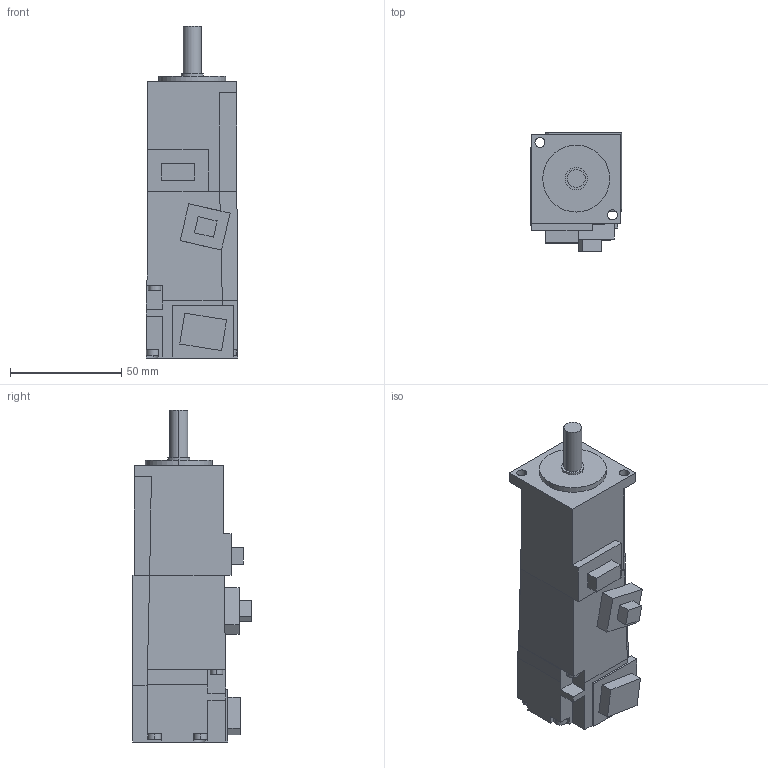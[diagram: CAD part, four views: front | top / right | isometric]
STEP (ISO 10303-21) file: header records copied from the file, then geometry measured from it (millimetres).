
FILE_DESCRIPTION((''),'2;1');
FILE_NAME('HF-KN13B_B_IF0001','2010-04-03T',('DD65885'),(''),'PRO/ENGINEER BY PARAMETRIC TECHNOLOGY CORPORATION, 2007390','PRO/ENGINEER BY PARAMETRIC TECHNOLOGY CORPORATION, 2007390','');
FILE_SCHEMA(('CONFIG_CONTROL_DESIGN'));
Length unit declared in the file: millimetre
Products named in the file (1): HF-KN13B_B_IF0001
Bounding box: 41.2 x 53.2 x 148.9 mm (x, y, z)
Volume: 199019.3 mm3; surface area: 26919.4 mm2
Topology: 1 solids, 1 shells, 117 faces, 298 edges, 194 vertices
Faces by surface type: plane 94, cylinder 23
Entity records: 3532 total; most frequent: CARTESIAN_POINT 609, ORIENTED_EDGE 596, DIRECTION 578, EDGE_CURVE 298, VECTOR 252, LINE 252, VERTEX_POINT 194, AXIS2_PLACEMENT_3D 163
